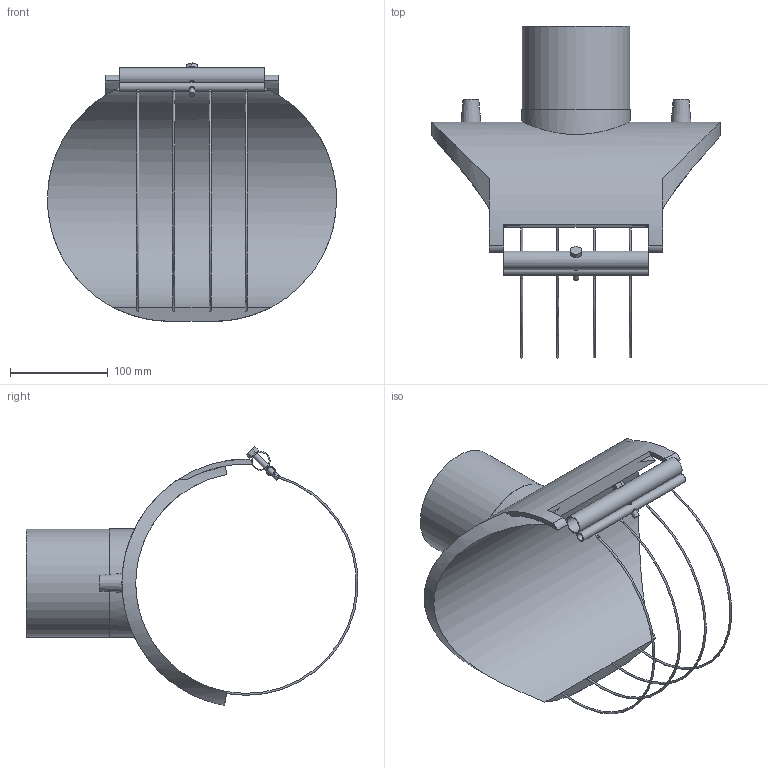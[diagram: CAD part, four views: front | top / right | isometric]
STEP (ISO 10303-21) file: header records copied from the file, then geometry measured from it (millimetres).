
FILE_DESCRIPTION(/* description */ ('Plasson Branch Saddle 225x110'),/* implementation_level */ '2;1');
FILE_NAME(/* name */ 'C:\Dropbox\KIMPROJECTS-Inventor 2019\99-16-3568-Processing\ElectroFusion Fittings\4958X4\4958X4225110T.stp',/* time_stamp */ '2025-05-07T12:15:34+03:00',/* author */ ('KIM'),/* organization */ (''),/* preprocessor_version */ 'ST-DEVELOPER v18.1',/* originating_system */ 'Autodesk Inventor 2021',/* authorisation */ '');
FILE_SCHEMA (('AUTOMOTIVE_DESIGN { 1 0 10303 214 3 1 1 }'));
Length unit declared in the file: millimetre
Products named in the file (1): 4958X4225110T
Bounding box: 295 x 338.75 x 264 mm (x, y, z)
Volume: 1477586.5 mm3; surface area: 282556.1 mm2
Topology: 1 solids, 1 shells, 63 faces, 178 edges, 115 vertices
Faces by surface type: cylinder 28, plane 25, torus 8, cone 2
Full cylindrical faces by diameter (mm): 6 x3, 7.6 x1, 8 x1, 16 x1, 17.2 x1, 89 x1, 110 x1, 111 x1
Entity records: 2953 total; most frequent: CARTESIAN_POINT 1258, ORIENTED_EDGE 360, DIRECTION 331, EDGE_CURVE 180, AXIS2_PLACEMENT_3D 135, VERTEX_POINT 115, EDGE_LOOP 81, CIRCLE 67
